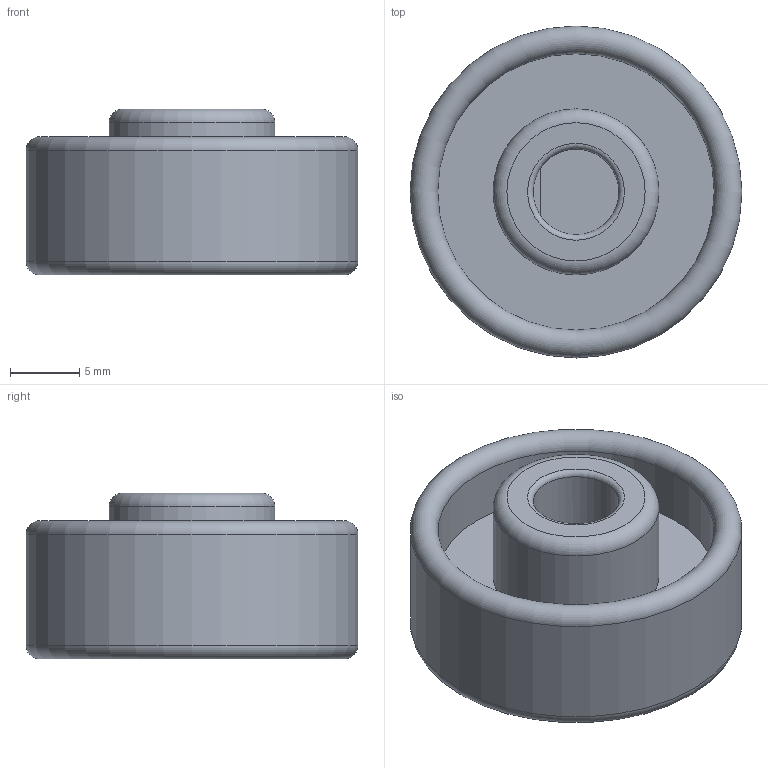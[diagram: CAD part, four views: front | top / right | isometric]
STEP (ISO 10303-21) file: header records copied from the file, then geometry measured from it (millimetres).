
FILE_DESCRIPTION(/* description */ (''),/* implementation_level */ '2;1');
FILE_NAME(/* name */ 'Knap_VC.step',/* time_stamp */ '2026-06-21T17:27:09+02:00',/* author */ (''),/* organization */ (''),/* preprocessor_version */ 'ST-DEVELOPER v20.1',/* originating_system */ 'Autodesk Translation Framework v15.8.0.0',/* authorisation */ '');
FILE_SCHEMA (('AUTOMOTIVE_DESIGN { 1 0 10303 214 3 1 1 }'));
Length unit declared in the file: millimetre
Products named in the file (2): 2026-06-11-08-03-41-367; 2026-06-11-14-49-13-048
Assembly tree (1 placements, depth 2):
  2026-06-11-08-03-41-367
    2026-06-11-14-49-13-048
Bounding box: 24 x 24 x 12 mm (x, y, z)
Volume: 3486.3 mm3; surface area: 2260 mm2
Topology: 1 solids, 1 shells, 14 faces, 26 edges, 16 vertices
Faces by surface type: plane 6, torus 4, cylinder 4
Full cylindrical faces by diameter (mm): 6.2 x1, 12 x1, 20 x1, 24 x1
Entity records: 430 total; most frequent: DIRECTION 78, CARTESIAN_POINT 59, ORIENTED_EDGE 52, AXIS2_PLACEMENT_3D 35, EDGE_CURVE 26, CIRCLE 18, EDGE_LOOP 16, VERTEX_POINT 16
